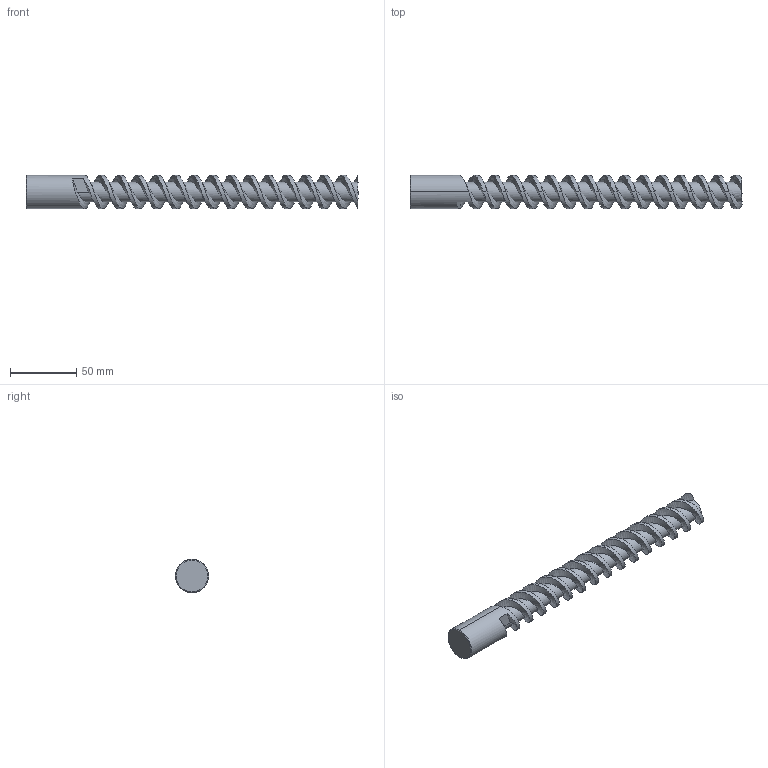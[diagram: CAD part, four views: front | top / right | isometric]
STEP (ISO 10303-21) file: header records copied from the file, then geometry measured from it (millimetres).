
FILE_DESCRIPTION (( 'STEP AP214' ), '1' );
FILE_NAME ('E2122_25_250.STEP', '2013-04-10T07:09:15', ( '' ), ( '' ), 'SwSTEP 2.0', 'SolidWorks 2013', '' );
FILE_SCHEMA (( 'AUTOMOTIVE_DESIGN' ));
Length unit declared in the file: millimetre
Products named in the file (1): E2122_25_250
Bounding box: 250 x 25 x 25 mm (x, y, z)
Volume: 76606.9 mm3; surface area: 23971.6 mm2
Topology: 1 solids, 1 shells, 46 faces, 126 edges, 82 vertices
Faces by surface type: cylinder 30, plane 8, bspline 6, cone 2
Entity records: 9685 total; most frequent: CARTESIAN_POINT 8218, ORIENTED_EDGE 252, DIRECTION 138, EDGE_CURVE 126, VERTEX_POINT 82, UNCERTAINTY_MEASURE_WITH_UNIT 49, MECHANICAL_DESIGN_GEOMETRIC_PRESENTATION_REPRESENTATION 48, PRESENTATION_LAYER_ASSIGNMENT 48
